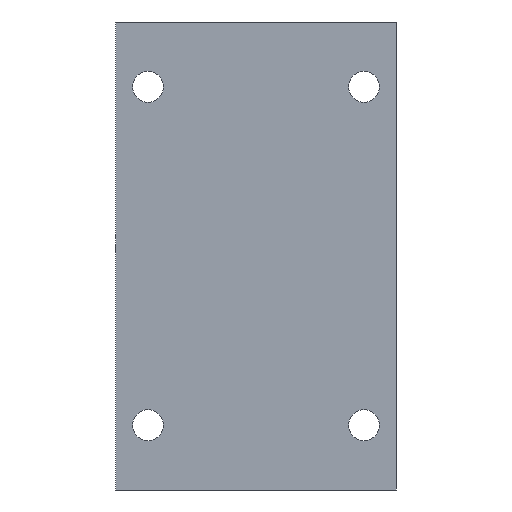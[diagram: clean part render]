
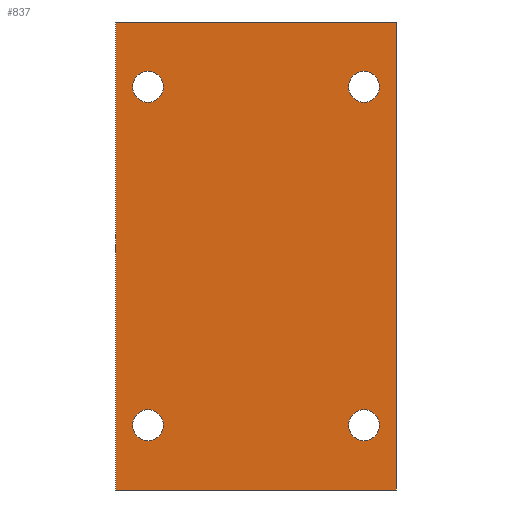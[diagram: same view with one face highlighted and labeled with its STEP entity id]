
A CAD part, front view. The second image highlights one B-rep face of the part: STEP entity #837.
In plain terms, the highlighted planar face has unit normal (0, -1, 0).
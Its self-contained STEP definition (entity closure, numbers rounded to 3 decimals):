
#19 = CARTESIAN_POINT ( 'NONE',  ( 39., -30., 65. ) ) ;
#24 = VERTEX_POINT ( 'NONE', #3049 ) ;
#56 = VECTOR ( 'NONE', #1286, 1000. ) ;
#68 = ORIENTED_EDGE ( 'NONE', *, *, #2399, .T. ) ;
#117 = DIRECTION ( 'NONE',  ( 0., 0., -1. ) ) ;
#120 = VERTEX_POINT ( 'NONE', #266 ) ;
#151 = DIRECTION ( 'NONE',  ( 0., 0., -1. ) ) ;
#161 = AXIS2_PLACEMENT_3D ( 'NONE', #2004, #2497, #989 ) ;
#185 = DIRECTION ( 'NONE',  ( 0., -1., 0. ) ) ;
#241 = EDGE_CURVE ( 'NONE', #1000, #24, #2745, .T. ) ;
#266 = CARTESIAN_POINT ( 'NONE',  ( -39., -30., 65. ) ) ;
#269 = LINE ( 'NONE', #19, #56 ) ;
#271 = FACE_BOUND ( 'NONE', #2096, .T. ) ;
#303 = EDGE_CURVE ( 'NONE', #1386, #2468, #728, .T. ) ;
#428 = VERTEX_POINT ( 'NONE', #1995 ) ;
#434 = AXIS2_PLACEMENT_3D ( 'NONE', #1991, #2996, #722 ) ;
#443 = CARTESIAN_POINT ( 'NONE',  ( 30., -30., -42.7 ) ) ;
#446 = ORIENTED_EDGE ( 'NONE', *, *, #2587, .F. ) ;
#489 = ORIENTED_EDGE ( 'NONE', *, *, #1102, .F. ) ;
#559 = PLANE ( 'NONE',  #1631 ) ;
#590 = AXIS2_PLACEMENT_3D ( 'NONE', #2192, #1669, #2908 ) ;
#660 = CARTESIAN_POINT ( 'NONE',  ( -30., -30., 51.3 ) ) ;
#686 = EDGE_CURVE ( 'NONE', #2140, #428, #2879, .T. ) ;
#690 = ORIENTED_EDGE ( 'NONE', *, *, #1955, .F. ) ;
#693 = CIRCLE ( 'NONE', #1332, 4.3 ) ;
#722 = DIRECTION ( 'NONE',  ( 0., 0., -1. ) ) ;
#728 = CIRCLE ( 'NONE', #783, 4.3 ) ;
#735 = DIRECTION ( 'NONE',  ( 0., 0., -1. ) ) ;
#738 = LINE ( 'NONE', #1802, #3223 ) ;
#754 = CARTESIAN_POINT ( 'NONE',  ( 30., -30., -51.3 ) ) ;
#783 = AXIS2_PLACEMENT_3D ( 'NONE', #2165, #2948, #1697 ) ;
#820 = CARTESIAN_POINT ( 'NONE',  ( -30., -30., -42.7 ) ) ;
#837 = ADVANCED_FACE ( 'NONE', ( #1449, #271, #2717, #2979, #2068 ), #559, .F. ) ;
#872 = CARTESIAN_POINT ( 'NONE',  ( -39., -30., -65. ) ) ;
#886 = DIRECTION ( 'NONE',  ( 0., -1., 0. ) ) ;
#917 = EDGE_LOOP ( 'NONE', ( #1789, #2887 ) ) ;
#950 = CIRCLE ( 'NONE', #161, 4.3 ) ;
#989 = DIRECTION ( 'NONE',  ( 0., 0., -1. ) ) ;
#1000 = VERTEX_POINT ( 'NONE', #2749 ) ;
#1102 = EDGE_CURVE ( 'NONE', #120, #1401, #738, .T. ) ;
#1110 = CIRCLE ( 'NONE', #1849, 4.3 ) ;
#1188 = EDGE_CURVE ( 'NONE', #2592, #1890, #1110, .T. ) ;
#1241 = LINE ( 'NONE', #2259, #2387 ) ;
#1272 = DIRECTION ( 'NONE',  ( 1., 0., 0. ) ) ;
#1282 = CARTESIAN_POINT ( 'NONE',  ( 30., -30., 47. ) ) ;
#1283 = VERTEX_POINT ( 'NONE', #2460 ) ;
#1286 = DIRECTION ( 'NONE',  ( 0., 0., -1. ) ) ;
#1291 = VECTOR ( 'NONE', #1637, 1000. ) ;
#1332 = AXIS2_PLACEMENT_3D ( 'NONE', #1541, #3069, #2605 ) ;
#1366 = CIRCLE ( 'NONE', #2593, 4.3 ) ;
#1386 = VERTEX_POINT ( 'NONE', #1474 ) ;
#1401 = VERTEX_POINT ( 'NONE', #2568 ) ;
#1403 = CARTESIAN_POINT ( 'NONE',  ( -39., -30., -65. ) ) ;
#1433 = CIRCLE ( 'NONE', #434, 4.3 ) ;
#1449 = FACE_BOUND ( 'NONE', #917, .T. ) ;
#1457 = EDGE_LOOP ( 'NONE', ( #1813, #1672 ) ) ;
#1474 = CARTESIAN_POINT ( 'NONE',  ( -30., -30., -51.3 ) ) ;
#1531 = EDGE_LOOP ( 'NONE', ( #2950, #2476, #489, #68 ) ) ;
#1541 = CARTESIAN_POINT ( 'NONE',  ( 30., -30., -47. ) ) ;
#1544 = EDGE_CURVE ( 'NONE', #24, #1000, #1366, .T. ) ;
#1562 = DIRECTION ( 'NONE',  ( 0., 1., 0. ) ) ;
#1631 = AXIS2_PLACEMENT_3D ( 'NONE', #1783, #1562, #2575 ) ;
#1637 = DIRECTION ( 'NONE',  ( 1., 0., 0. ) ) ;
#1669 = DIRECTION ( 'NONE',  ( 0., -1., 0. ) ) ;
#1672 = ORIENTED_EDGE ( 'NONE', *, *, #241, .F. ) ;
#1697 = DIRECTION ( 'NONE',  ( 0., 0., -1. ) ) ;
#1739 = AXIS2_PLACEMENT_3D ( 'NONE', #2391, #185, #117 ) ;
#1783 = CARTESIAN_POINT ( 'NONE',  ( -39., -30., 65. ) ) ;
#1789 = ORIENTED_EDGE ( 'NONE', *, *, #303, .F. ) ;
#1802 = CARTESIAN_POINT ( 'NONE',  ( -39., -30., 65. ) ) ;
#1813 = ORIENTED_EDGE ( 'NONE', *, *, #1544, .F. ) ;
#1815 = ORIENTED_EDGE ( 'NONE', *, *, #2783, .F. ) ;
#1849 = AXIS2_PLACEMENT_3D ( 'NONE', #2426, #886, #1916 ) ;
#1890 = VERTEX_POINT ( 'NONE', #754 ) ;
#1916 = DIRECTION ( 'NONE',  ( 0., 0., -1. ) ) ;
#1955 = EDGE_CURVE ( 'NONE', #3195, #1283, #950, .T. ) ;
#1991 = CARTESIAN_POINT ( 'NONE',  ( -30., -30., 47. ) ) ;
#1995 = CARTESIAN_POINT ( 'NONE',  ( 39., -30., -65. ) ) ;
#2004 = CARTESIAN_POINT ( 'NONE',  ( -30., -30., 47. ) ) ;
#2068 = FACE_BOUND ( 'NONE', #1457, .T. ) ;
#2096 = EDGE_LOOP ( 'NONE', ( #446, #690 ) ) ;
#2140 = VERTEX_POINT ( 'NONE', #872 ) ;
#2159 = EDGE_CURVE ( 'NONE', #2468, #1386, #2916, .T. ) ;
#2165 = CARTESIAN_POINT ( 'NONE',  ( -30., -30., -47. ) ) ;
#2192 = CARTESIAN_POINT ( 'NONE',  ( -30., -30., -47. ) ) ;
#2202 = EDGE_LOOP ( 'NONE', ( #1815, #2265 ) ) ;
#2259 = CARTESIAN_POINT ( 'NONE',  ( -39., -30., 65. ) ) ;
#2265 = ORIENTED_EDGE ( 'NONE', *, *, #1188, .F. ) ;
#2387 = VECTOR ( 'NONE', #735, 1000. ) ;
#2391 = CARTESIAN_POINT ( 'NONE',  ( 30., -30., 47. ) ) ;
#2399 = EDGE_CURVE ( 'NONE', #120, #2140, #1241, .T. ) ;
#2426 = CARTESIAN_POINT ( 'NONE',  ( 30., -30., -47. ) ) ;
#2460 = CARTESIAN_POINT ( 'NONE',  ( -30., -30., 42.7 ) ) ;
#2468 = VERTEX_POINT ( 'NONE', #820 ) ;
#2476 = ORIENTED_EDGE ( 'NONE', *, *, #2496, .F. ) ;
#2496 = EDGE_CURVE ( 'NONE', #1401, #428, #269, .T. ) ;
#2497 = DIRECTION ( 'NONE',  ( 0., -1., 0. ) ) ;
#2568 = CARTESIAN_POINT ( 'NONE',  ( 39., -30., 65. ) ) ;
#2575 = DIRECTION ( 'NONE',  ( 0., 0., 1. ) ) ;
#2587 = EDGE_CURVE ( 'NONE', #1283, #3195, #1433, .T. ) ;
#2592 = VERTEX_POINT ( 'NONE', #443 ) ;
#2593 = AXIS2_PLACEMENT_3D ( 'NONE', #1282, #3189, #151 ) ;
#2605 = DIRECTION ( 'NONE',  ( 0., 0., -1. ) ) ;
#2717 = FACE_BOUND ( 'NONE', #2202, .T. ) ;
#2745 = CIRCLE ( 'NONE', #1739, 4.3 ) ;
#2749 = CARTESIAN_POINT ( 'NONE',  ( 30., -30., 51.3 ) ) ;
#2783 = EDGE_CURVE ( 'NONE', #1890, #2592, #693, .T. ) ;
#2879 = LINE ( 'NONE', #1403, #1291 ) ;
#2887 = ORIENTED_EDGE ( 'NONE', *, *, #2159, .F. ) ;
#2908 = DIRECTION ( 'NONE',  ( 0., 0., -1. ) ) ;
#2916 = CIRCLE ( 'NONE', #590, 4.3 ) ;
#2948 = DIRECTION ( 'NONE',  ( 0., -1., 0. ) ) ;
#2950 = ORIENTED_EDGE ( 'NONE', *, *, #686, .T. ) ;
#2979 = FACE_OUTER_BOUND ( 'NONE', #1531, .T. ) ;
#2996 = DIRECTION ( 'NONE',  ( 0., -1., 0. ) ) ;
#3049 = CARTESIAN_POINT ( 'NONE',  ( 30., -30., 42.7 ) ) ;
#3069 = DIRECTION ( 'NONE',  ( 0., -1., 0. ) ) ;
#3189 = DIRECTION ( 'NONE',  ( 0., -1., 0. ) ) ;
#3195 = VERTEX_POINT ( 'NONE', #660 ) ;
#3223 = VECTOR ( 'NONE', #1272, 1000. ) ;
